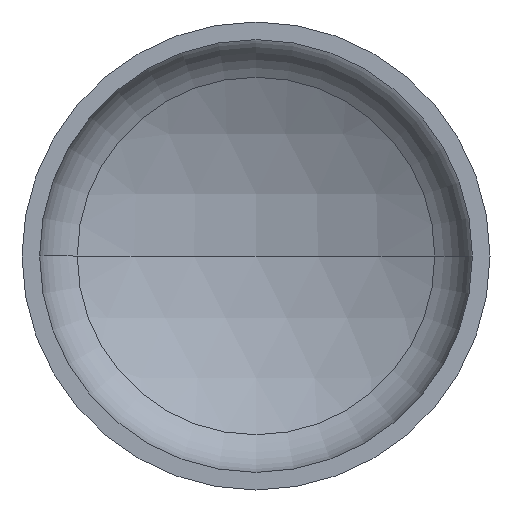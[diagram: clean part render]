
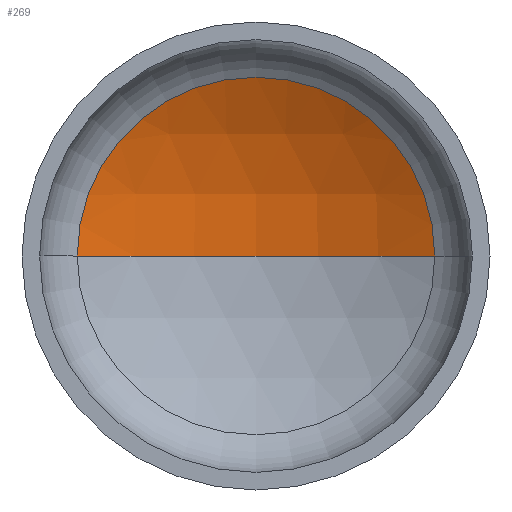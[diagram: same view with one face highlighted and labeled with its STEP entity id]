
A CAD part, front view. The second image highlights one B-rep face of the part: STEP entity #269.
In plain terms, the highlighted spherical face has radius 1040 mm.
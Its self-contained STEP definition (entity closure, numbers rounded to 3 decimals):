
#9 = VERTEX_POINT ( 'NONE', #254 ) ;
#20 = AXIS2_PLACEMENT_3D ( 'NONE', #393, #77, #140 ) ;
#27 = AXIS2_PLACEMENT_3D ( 'NONE', #180, #185, #388 ) ;
#31 = AXIS2_PLACEMENT_3D ( 'NONE', #390, #171, #104 ) ;
#34 = AXIS2_PLACEMENT_3D ( 'NONE', #178, #173, #172 ) ;
#41 = EDGE_LOOP ( 'NONE', ( #81, #74, #187 ) ) ;
#74 = ORIENTED_EDGE ( 'NONE', *, *, #230, .T. ) ;
#77 = DIRECTION ( 'NONE',  ( 0., 0., -1. ) ) ;
#78 = CIRCLE ( 'NONE', #31, 1040. ) ;
#81 = ORIENTED_EDGE ( 'NONE', *, *, #240, .F. ) ;
#86 = VERTEX_POINT ( 'NONE', #208 ) ;
#104 = DIRECTION ( 'NONE',  ( 1., 0., 0. ) ) ;
#140 = DIRECTION ( 'NONE',  ( -1., 0., 0. ) ) ;
#142 = VERTEX_POINT ( 'NONE', #211 ) ;
#166 = FACE_OUTER_BOUND ( 'NONE', #41, .T. ) ;
#171 = DIRECTION ( 'NONE',  ( 0., 0., 1. ) ) ;
#172 = DIRECTION ( 'NONE',  ( 1., 0., 0. ) ) ;
#173 = DIRECTION ( 'NONE',  ( 0., -1., 0. ) ) ;
#178 = CARTESIAN_POINT ( 'NONE',  ( 0., 325.739, 0. ) ) ;
#180 = CARTESIAN_POINT ( 'NONE',  ( 0., -588.105, 0. ) ) ;
#184 = CIRCLE ( 'NONE', #27, 1040. ) ;
#185 = DIRECTION ( 'NONE',  ( 0., 0., -1. ) ) ;
#187 = ORIENTED_EDGE ( 'NONE', *, *, #207, .T. ) ;
#207 = EDGE_CURVE ( 'NONE', #9, #86, #317, .T. ) ;
#208 = CARTESIAN_POINT ( 'NONE',  ( -496.476, 325.739, 0. ) ) ;
#211 = CARTESIAN_POINT ( 'NONE',  ( 0., 451.895, 0. ) ) ;
#230 = EDGE_CURVE ( 'NONE', #142, #9, #184, .T. ) ;
#240 = EDGE_CURVE ( 'NONE', #142, #86, #78, .T. ) ;
#254 = CARTESIAN_POINT ( 'NONE',  ( 496.476, 325.739, 0. ) ) ;
#269 = ADVANCED_FACE ( 'NONE', ( #166 ), #377, .F. ) ;
#317 = CIRCLE ( 'NONE', #34, 496.476 ) ;
#377 = SPHERICAL_SURFACE ( 'NONE', #20, 1040. ) ;
#388 = DIRECTION ( 'NONE',  ( -1., 0., 0. ) ) ;
#390 = CARTESIAN_POINT ( 'NONE',  ( 0., -588.105, 0. ) ) ;
#393 = CARTESIAN_POINT ( 'NONE',  ( 0., -588.105, 0. ) ) ;
